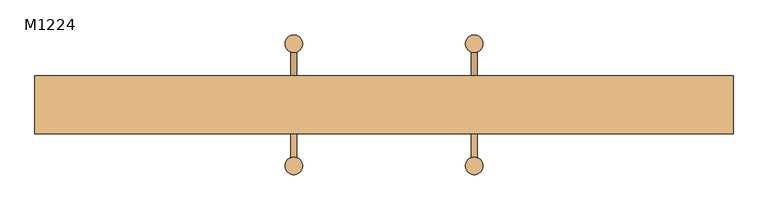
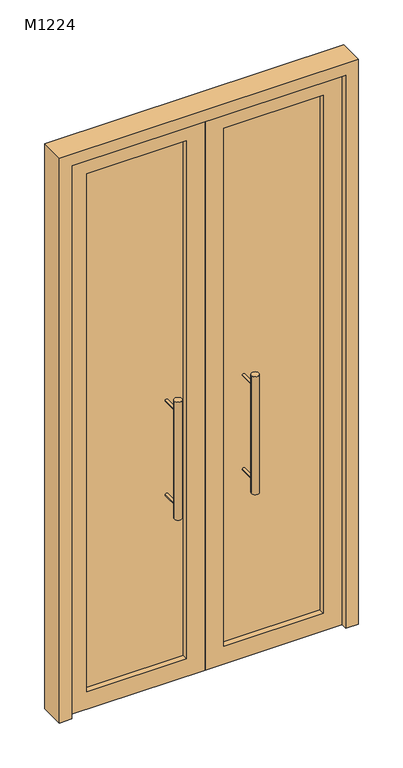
"""IFC4 building model written with IfcOpenShell, lengths in millimetres: door geometry, 双面嵌板玻璃门 : M1224."""

import ifcopenshell
import ifcopenshell.guid

model = None  # the IFC model being written
_history = None  # IfcOwnerHistory: only IFC2X3 demands one
_inside = {}  # id of a spatial element -> (the spatial element, [elements in it])
_under = {}  # id of a project, library or spatial element -> (it, [spatial elements below it])
_declared = {}  # id of a project -> (the project, [libraries it declares])
_typed = {}  # id of a type object -> (the type object, [elements of that type])
_made_of = {}  # id of a material, layer set ... -> (it, [elements and type objects made of it])


def new_model(schema):
    """Start an empty IFC model of exactly this schema.

    Asked for "IFC4X3", IfcOpenShell would pick the latest addendum, in which some entities
    have other attributes; the version numbers below select the first issue.
    IFC2X3 requires an IfcOwnerHistory on every rooted entity: one is made here for all.
    """
    global model, _history
    if schema == "IFC4X3":
        model = ifcopenshell.file(schema_version=(4, 3, 0, 0))
    else:
        model = ifcopenshell.file(schema=schema)
    _inside.clear()
    _under.clear()
    _declared.clear()
    _typed.clear()
    _made_of.clear()
    _history = None
    if model.schema == "IFC2X3":
        org = make("IfcOrganization", Name="unknown")
        user = make(
            "IfcPersonAndOrganization",
            ThePerson=make("IfcPerson", FamilyName="unknown"),
            TheOrganization=org,
        )
        app = make(
            "IfcApplication",
            ApplicationDeveloper=org,
            Version="unknown",
            ApplicationFullName="unknown",
            ApplicationIdentifier="unknown",
        )
        _history = make(
            "IfcOwnerHistory",
            OwningUser=user,
            OwningApplication=app,
            ChangeAction="ADDED",
            CreationDate=0,
        )
    return model


def make(cls, **values):
    """One entity of the class cls with the attributes given. An attribute that is None is left unset."""
    return model.create_entity(
        cls, **{name: value for name, value in values.items() if value is not None}
    )


def rooted(cls, **values):
    """An entity with a GlobalId (a new one), such as an element, a storey or a relation."""
    return make(cls, GlobalId=ifcopenshell.guid.new(), OwnerHistory=_history, **values)


def si_unit(unit_type, name, prefix=None):
    """IfcSIUnit, for example si_unit("LENGTHUNIT", "METRE", prefix="MILLI")."""
    return make("IfcSIUnit", UnitType=unit_type, Prefix=prefix, Name=name)


def assignment(units):
    """IfcUnitAssignment: the units of a project."""
    return None if units is None else make("IfcUnitAssignment", Units=units)


def point(xyz):
    """IfcCartesianPoint."""
    return None if xyz is None else make("IfcCartesianPoint", Coordinates=xyz)


def direction(xyz):
    """IfcDirection."""
    return None if xyz is None else make("IfcDirection", DirectionRatios=xyz)


def frame(location, z_axis=None, x_axis=None):
    """IfcAxis2Placement3D, a coordinate frame: its origin and axes. An axis left out is left unset."""
    return make(
        "IfcAxis2Placement3D",
        Location=point(location),
        Axis=direction(z_axis),
        RefDirection=direction(x_axis),
    )


def frame_2d(location, x_axis=None):
    """IfcAxis2Placement2D, a coordinate frame in the plane: its origin and x axis."""
    return make(
        "IfcAxis2Placement2D", Location=point(location), RefDirection=direction(x_axis)
    )


def origin():
    """The frame at (0, 0, 0) with its axes left unset."""
    return frame((0.0, 0.0, 0.0))


def place(relative_to, where):
    """IfcLocalPlacement: puts the frame where relative to a parent placement (None: the world)."""
    return make(
        "IfcLocalPlacement", PlacementRelTo=relative_to, RelativePlacement=where
    )


def context(
    kind, dimensions, precision=None, world=None, true_north=None, identifier=None
):
    """IfcGeometricRepresentationContext, for example the 3D "Model" context."""
    return make(
        "IfcGeometricRepresentationContext",
        ContextIdentifier=identifier,
        ContextType=kind,
        CoordinateSpaceDimension=dimensions,
        Precision=precision,
        WorldCoordinateSystem=world,
        TrueNorth=true_north,
    )


def project(units=None, contexts=None):
    """IfcProject with its units and contexts."""
    return rooted(
        "IfcProject",
        Name="project",
        RepresentationContexts=contexts,
        UnitsInContext=assignment(units),
    )


def spatial(cls, under=None, at=None, **own):
    """A site, building, storey or space (cls), placed at a placement, below another one or the project."""
    s = rooted(cls, ObjectPlacement=at, **own)
    if under is not None:
        _under.setdefault(under.id(), (under, []))[1].append(s)
    return s


def polyline(points):
    """IfcPolyline through the points."""
    return make("IfcPolyline", Points=[point(p) for p in points])


def circle_curve(where, radius):
    """IfcCircle in the frame where."""
    return make("IfcCircle", Position=where, Radius=radius)


def trimmed(basis, trim1, trim2, sense, master):
    """IfcTrimmedCurve: the piece of a basis curve between two trims."""
    return make(
        "IfcTrimmedCurve",
        BasisCurve=basis,
        Trim1=trim1,
        Trim2=trim2,
        SenseAgreement=sense,
        MasterRepresentation=master,
    )


def segment(curve, same_sense, transition):
    """IfcCompositeCurveSegment."""
    return make(
        "IfcCompositeCurveSegment",
        Transition=transition,
        SameSense=same_sense,
        ParentCurve=curve,
    )


def composite_curve(segments, self_intersect=None):
    """IfcCompositeCurve: segments joined end to end."""
    return make("IfcCompositeCurve", Segments=segments, SelfIntersect=self_intersect)


def outline(outer, holes=None, kind="AREA"):
    """IfcArbitraryClosedProfileDef: a profile drawn as a closed curve; with holes, ...WithVoids."""
    if holes is None:
        return make("IfcArbitraryClosedProfileDef", ProfileType=kind, OuterCurve=outer)
    return make(
        "IfcArbitraryProfileDefWithVoids",
        ProfileType=kind,
        OuterCurve=outer,
        InnerCurves=holes,
    )


def extrude(swept, where, along, depth):
    """IfcExtrudedAreaSolid: the profile swept, set in the frame where, extruded along a direction by depth."""
    return make(
        "IfcExtrudedAreaSolid",
        SweptArea=swept,
        Position=where,
        ExtrudedDirection=direction(along),
        Depth=depth,
    )


def shape(context_of_items, identifier, shape_type, items):
    """IfcShapeRepresentation: the items that make up one representation, for example the "Body"."""
    return make(
        "IfcShapeRepresentation",
        ContextOfItems=context_of_items,
        RepresentationIdentifier=identifier,
        RepresentationType=shape_type,
        Items=items,
    )


def source(mapping_origin, context_of_items, identifier, shape_type, items):
    """IfcRepresentationMap: a shape defined once, which mapped items show again and again."""
    return make(
        "IfcRepresentationMap",
        MappingOrigin=mapping_origin,
        MappedRepresentation=shape(context_of_items, identifier, shape_type, items),
    )


def transform(
    local_origin,
    x_axis=None,
    y_axis=None,
    z_axis=None,
    scale=None,
    scale2=None,
    scale3=None,
    uniform=True,
):
    """IfcCartesianTransformationOperator3D, or its non-uniform kind. x_axis, y_axis, z_axis: its Axis1, 2, 3."""
    if uniform:
        return make(
            "IfcCartesianTransformationOperator3D",
            Axis1=direction(x_axis),
            Axis2=direction(y_axis),
            LocalOrigin=point(local_origin),
            Scale=scale,
            Axis3=direction(z_axis),
        )
    return make(
        "IfcCartesianTransformationOperator3DnonUniform",
        Axis1=direction(x_axis),
        Axis2=direction(y_axis),
        LocalOrigin=point(local_origin),
        Scale=scale,
        Axis3=direction(z_axis),
        Scale2=scale2,
        Scale3=scale3,
    )


def mapped(mapping_source, mapping_target):
    """IfcMappedItem: shows the shape of a source again, moved by a transform."""
    return make(
        "IfcMappedItem", MappingSource=mapping_source, MappingTarget=mapping_target
    )


def made_of(thing, what):
    """Note that an element or type object is made of a material, layer set ...; save() writes the relation."""
    if what is not None:
        _made_of.setdefault(what.id(), (what, []))[1].append(thing)
    return thing


def element(
    cls,
    number,
    at=None,
    inside=None,
    cuts=None,
    type_object=None,
    material=None,
    context=None,
    identifier="Body",
    shape_type=None,
    held_by="IfcProductDefinitionShape",
    body=None,
    shapes=None,
    **own,
):
    """One element of the class cls, such as IfcWall. Its Tag is "e" and its number.

    at: its placement. inside: the storey or other place that contains it. cuts: it is an
    opening in that element (IfcRelVoidsElement). A single representation is given by context,
    identifier, shape_type and body (its items); several are given by shapes. held_by: the class
    of the entity that holds the representations. save() writes the other relations.
    """
    e = rooted(cls, Tag="e%d" % number, ObjectPlacement=at, **own)
    if body is not None:
        shapes = [shape(context, identifier, shape_type, body)]
    if shapes is not None:
        e.Representation = make(held_by, Representations=shapes)
    if inside is not None:
        _inside.setdefault(inside.id(), (inside, []))[1].append(e)
    if cuts is not None:
        rooted(
            "IfcRelVoidsElement", RelatingBuildingElement=cuts, RelatedOpeningElement=e
        )
    if type_object is not None:
        _typed.setdefault(type_object.id(), (type_object, []))[1].append(e)
    return made_of(e, material)


def aggregate(whole, parts):
    """IfcRelAggregates: a whole, such as a stair, and the parts it consists of."""
    return rooted("IfcRelAggregates", RelatingObject=whole, RelatedObjects=parts)


def save(model, path):
    """Write the relations noted so far, then the file.

    IfcRelAggregates (storeys below a building ...), IfcRelContainedInSpatialStructure (elements
    in a storey), IfcRelDefinesByType, IfcRelAssociatesMaterial and IfcRelDeclares: one each for
    every whole, place, type object, material and project.
    """
    for whole, parts in _under.values():
        aggregate(whole, parts)
    for where, things in _inside.values():
        rooted(
            "IfcRelContainedInSpatialStructure",
            RelatedElements=things,
            RelatingStructure=where,
        )
    for kind, things in _typed.values():
        rooted("IfcRelDefinesByType", RelatedObjects=things, RelatingType=kind)
    for what, things in _made_of.values():
        rooted("IfcRelAssociatesMaterial", RelatedObjects=things, RelatingMaterial=what)
    for by, libraries in _declared.values():
        rooted("IfcRelDeclares", RelatingContext=by, RelatedDefinitions=libraries)
    model.write(path)


def m1224_4f9c1d82(model_context):
    return source(origin(), model_context, "Body", "SweptSolid", [
        extrude(outline(composite_curve([segment(trimmed(circle_curve(frame_2d((155.0, 105.0)), 15.0), [point((140.0, 105.0))], [point((170.0, 105.0))], False, "CARTESIAN"), True, "CONTINUOUS"), segment(trimmed(circle_curve(frame_2d((155.0, 105.0)), 15.0), [point((170.0, 105.0))], [point((140.0, 105.0))], False, "CARTESIAN"), True, "CONTINUOUS")], self_intersect=False)), frame((0.0, 0.0, 750.0), z_axis=(0.0, 0.0, 1.0), x_axis=(1.0, 0.0, 0.0)), (0.0, 0.0, 1.0), 500.0),
        extrude(outline(composite_curve([segment(trimmed(circle_curve(frame_2d((1200.0, 155.0)), 5.0), [point((1200.0, 150.0))], [point((1200.0, 160.0))], False, "CARTESIAN"), True, "CONTINUOUS"), segment(trimmed(circle_curve(frame_2d((1200.0, 155.0)), 5.0), [point((1200.0, 160.0))], [point((1200.0, 150.0))], False, "CARTESIAN"), True, "CONTINUOUS")], self_intersect=False)), frame((0.0, 25.0, 0.0), z_axis=(0.0, 1.0, 0.0), x_axis=(0.0, 0.0, 1.0)), (0.0, 0.0, 1.0), 80.0),
        extrude(outline(composite_curve([segment(trimmed(circle_curve(frame_2d((800.0, 155.0)), 5.0), [point((800.0, 150.0))], [point((800.0, 160.0))], False, "CARTESIAN"), True, "CONTINUOUS"), segment(trimmed(circle_curve(frame_2d((800.0, 155.0)), 5.0), [point((800.0, 160.0))], [point((800.0, 150.0))], False, "CARTESIAN"), True, "CONTINUOUS")], self_intersect=False)), frame((0.0, 25.0, 0.0), z_axis=(0.0, 1.0, 0.0), x_axis=(0.0, 0.0, 1.0)), (0.0, 0.0, 1.0), 80.0),
        extrude(outline(composite_curve([segment(trimmed(circle_curve(frame_2d((1200.0, 155.0)), 5.0), [point((1200.0, 150.0))], [point((1200.0, 160.0))], False, "CARTESIAN"), True, "CONTINUOUS"), segment(trimmed(circle_curve(frame_2d((1200.0, 155.0)), 5.0), [point((1200.0, 160.0))], [point((1200.0, 150.0))], False, "CARTESIAN"), True, "CONTINUOUS")], self_intersect=False)), frame((0.0, -105.0, 0.0), z_axis=(0.0, 1.0, 0.0), x_axis=(0.0, 0.0, 1.0)), (0.0, 0.0, 1.0), 80.0),
        extrude(outline(composite_curve([segment(trimmed(circle_curve(frame_2d((800.0, 155.0)), 5.0), [point((800.0, 150.0))], [point((800.0, 160.0))], False, "CARTESIAN"), True, "CONTINUOUS"), segment(trimmed(circle_curve(frame_2d((800.0, 155.0)), 5.0), [point((800.0, 160.0))], [point((800.0, 150.0))], False, "CARTESIAN"), True, "CONTINUOUS")], self_intersect=False)), frame((0.0, -105.0, 0.0), z_axis=(0.0, 1.0, 0.0), x_axis=(0.0, 0.0, 1.0)), (0.0, 0.0, 1.0), 80.0),
        extrude(outline(composite_curve([segment(trimmed(circle_curve(frame_2d((155.0, -105.0)), 15.0), [point((140.0, -105.0))], [point((170.0, -105.0))], False, "CARTESIAN"), True, "CONTINUOUS"), segment(trimmed(circle_curve(frame_2d((155.0, -105.0)), 15.0), [point((170.0, -105.0))], [point((140.0, -105.0))], False, "CARTESIAN"), True, "CONTINUOUS")], self_intersect=False)), frame((0.0, 0.0, 750.0), z_axis=(0.0, 0.0, 1.0), x_axis=(1.0, 0.0, 0.0)), (0.0, 0.0, 1.0), 500.0),
        extrude(outline(composite_curve([segment(trimmed(circle_curve(frame_2d((-155.0, 105.0)), 15.0), [point((-170.0, 105.0))], [point((-140.0, 105.0))], False, "CARTESIAN"), True, "CONTINUOUS"), segment(trimmed(circle_curve(frame_2d((-155.0, 105.0)), 15.0), [point((-140.0, 105.0))], [point((-170.0, 105.0))], False, "CARTESIAN"), True, "CONTINUOUS")], self_intersect=False)), frame((0.0, 0.0, 750.0), z_axis=(0.0, 0.0, 1.0), x_axis=(1.0, 0.0, 0.0)), (0.0, 0.0, 1.0), 500.0),
        extrude(outline(composite_curve([segment(trimmed(circle_curve(frame_2d((1200.0, -155.0)), 5.0), [point((1200.0, -160.0))], [point((1200.0, -150.0))], False, "CARTESIAN"), True, "CONTINUOUS"), segment(trimmed(circle_curve(frame_2d((1200.0, -155.0)), 5.0), [point((1200.0, -150.0))], [point((1200.0, -160.0))], False, "CARTESIAN"), True, "CONTINUOUS")], self_intersect=False)), frame((0.0, 25.0, 0.0), z_axis=(0.0, 1.0, 0.0), x_axis=(0.0, 0.0, 1.0)), (0.0, 0.0, 1.0), 80.0),
        extrude(outline(composite_curve([segment(trimmed(circle_curve(frame_2d((800.0, -155.0)), 5.0), [point((800.0, -160.0))], [point((800.0, -150.0))], False, "CARTESIAN"), True, "CONTINUOUS"), segment(trimmed(circle_curve(frame_2d((800.0, -155.0)), 5.0), [point((800.0, -150.0))], [point((800.0, -160.0))], False, "CARTESIAN"), True, "CONTINUOUS")], self_intersect=False)), frame((0.0, 25.0, 0.0), z_axis=(0.0, 1.0, 0.0), x_axis=(0.0, 0.0, 1.0)), (0.0, 0.0, 1.0), 80.0),
        extrude(outline(composite_curve([segment(trimmed(circle_curve(frame_2d((1200.0, -155.0)), 5.0), [point((1200.0, -160.0))], [point((1200.0, -150.0))], False, "CARTESIAN"), True, "CONTINUOUS"), segment(trimmed(circle_curve(frame_2d((1200.0, -155.0)), 5.0), [point((1200.0, -150.0))], [point((1200.0, -160.0))], False, "CARTESIAN"), True, "CONTINUOUS")], self_intersect=False)), frame((0.0, -105.0, 0.0), z_axis=(0.0, 1.0, 0.0), x_axis=(0.0, 0.0, 1.0)), (0.0, 0.0, 1.0), 80.0),
        extrude(outline(composite_curve([segment(trimmed(circle_curve(frame_2d((800.0, -155.0)), 5.0), [point((800.0, -160.0))], [point((800.0, -150.0))], False, "CARTESIAN"), True, "CONTINUOUS"), segment(trimmed(circle_curve(frame_2d((800.0, -155.0)), 5.0), [point((800.0, -150.0))], [point((800.0, -160.0))], False, "CARTESIAN"), True, "CONTINUOUS")], self_intersect=False)), frame((0.0, -105.0, 0.0), z_axis=(0.0, 1.0, 0.0), x_axis=(0.0, 0.0, 1.0)), (0.0, 0.0, 1.0), 80.0),
        extrude(outline(composite_curve([segment(trimmed(circle_curve(frame_2d((-155.0, -105.0)), 15.0), [point((-170.0, -105.0))], [point((-140.0, -105.0))], False, "CARTESIAN"), True, "CONTINUOUS"), segment(trimmed(circle_curve(frame_2d((-155.0, -105.0)), 15.0), [point((-140.0, -105.0))], [point((-170.0, -105.0))], False, "CARTESIAN"), True, "CONTINUOUS")], self_intersect=False)), frame((0.0, 0.0, 750.0), z_axis=(0.0, 0.0, 1.0), x_axis=(1.0, 0.0, 0.0)), (0.0, 0.0, 1.0), 500.0),
        extrude(outline(polyline([(75.0, 2.0), (475.0, 2.0), (475.0, -2.0), (75.0, -2.0), (75.0, 2.0)])), frame((0.0, 0.0, 75.0), z_axis=(0.0, 0.0, 1.0), x_axis=(1.0, 0.0, 0.0)), (0.0, 0.0, 1.0), 2200.0),
        extrude(outline(polyline([(-475.0, 2.0), (-75.0, 2.0), (-75.0, -2.0), (-475.0, -2.0), (-475.0, 2.0)])), frame((0.0, 0.0, 75.0), z_axis=(0.0, 0.0, 1.0), x_axis=(1.0, 0.0, 0.0)), (0.0, 0.0, 1.0), 2200.0),
        extrude(outline(polyline([(2350.0, 0.0), (2350.0, -550.0), (0.0, -550.0), (0.0, 0.0), (2350.0, 0.0)]), holes=[polyline([(2275.0, -475.0), (2275.0, -75.0), (75.0, -75.0), (75.0, -475.0), (2275.0, -475.0)])]), frame((0.0, -25.0, 0.0), z_axis=(0.0, 1.0, 0.0), x_axis=(0.0, 0.0, 1.0)), (0.0, 0.0, 1.0), 50.0),
        extrude(outline(polyline([(2350.0, 0.0), (0.0, 0.0), (0.0, 550.0), (2350.0, 550.0), (2350.0, 0.0)]), holes=[polyline([(2275.0, 475.0), (75.0, 475.0), (75.0, 75.0), (2275.0, 75.0), (2275.0, 475.0)])]), frame((0.0, -25.0, 0.0), z_axis=(0.0, 1.0, 0.0), x_axis=(0.0, 0.0, 1.0)), (0.0, 0.0, 1.0), 50.0),
        extrude(outline(polyline([(2400.0, 600.0), (2400.0, -600.0), (0.0, -600.0), (0.0, -550.0), (2350.0, -550.0), (2350.0, 550.0), (0.0, 550.0), (0.0, 600.0), (2400.0, 600.0)])), frame((0.0, -50.0, 0.0), z_axis=(0.0, 1.0, 0.0), x_axis=(0.0, 0.0, 1.0)), (0.0, 0.0, 1.0), 100.0),
    ])


if __name__ == "__main__":
    model = new_model("IFC4")
    model_context = context("Model", 3, world=origin())
    ifc_project = project(units=[si_unit("LENGTHUNIT", "METRE", prefix="MILLI")], contexts=[model_context])
    site = spatial("IfcSite", under=ifc_project)
    building = spatial("IfcBuilding", under=site)
    placement = place(None, origin())
    m1224_shape = m1224_4f9c1d82(model_context)
    element("IfcDoor", 1, ObjectType="双面嵌板玻璃门 : M1224", at=placement, inside=building, context=model_context, shape_type="MappedRepresentation", body=[
        mapped(m1224_shape, transform((0.0, 0.0, 0.0), x_axis=(1.0, 0.0, 0.0), y_axis=(0.0, 1.0, 0.0), z_axis=(0.0, 0.0, 1.0))),
    ])
    save(model, "model.ifc")
